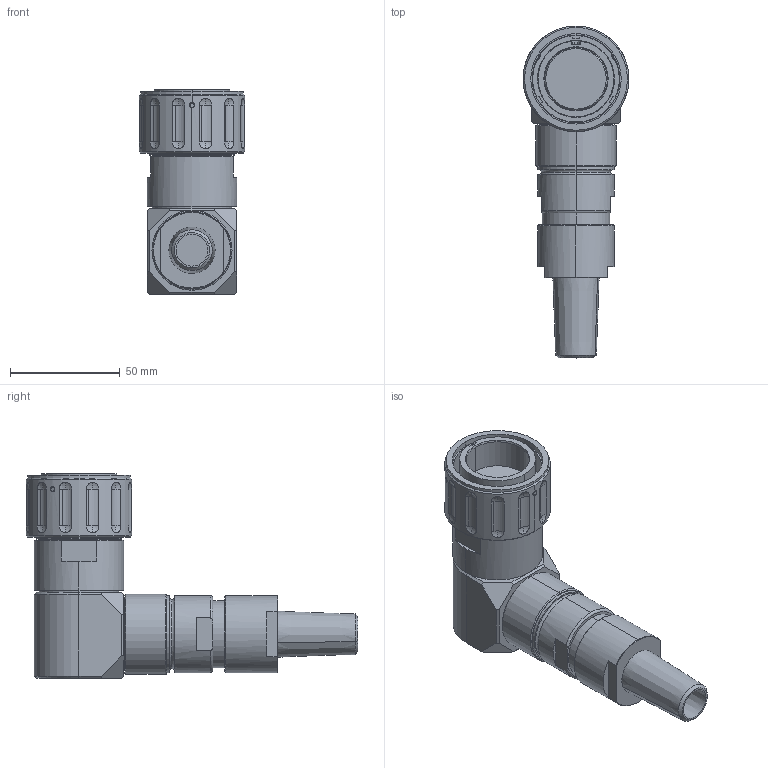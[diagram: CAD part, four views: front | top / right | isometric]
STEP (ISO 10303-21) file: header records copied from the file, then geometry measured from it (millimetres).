
FILE_DESCRIPTION (( 'STEP AP214' ), '1' );
FILE_NAME ('QLINK90-PGBX-23XX-SXXX-RA.STEP', '2025-12-09T16:18:38', ( '' ), ( '' ), 'SwSTEP 2.0', 'SolidWorks 2024', '' );
FILE_SCHEMA (( 'AUTOMOTIVE_DESIGN' ));
Length unit declared in the file: millimetre
Products named in the file (1): QLINK90-PGBX-23XX-SXXX-RA
Bounding box: 48.06 x 150.84 x 93.22 mm (x, y, z)
Volume: 195619.8 mm3; surface area: 38586.2 mm2
Topology: 5 solids, 7 shells, 328 faces, 772 edges, 494 vertices
Faces by surface type: cylinder 103, plane 93, cone 59, sphere 48, torus 13, bspline 12
Entity records: 14006 total; most frequent: CARTESIAN_POINT 6399, DIRECTION 1620, ORIENTED_EDGE 1544, EDGE_CURVE 772, AXIS2_PLACEMENT_3D 659, VERTEX_POINT 494, EDGE_LOOP 372, CIRCLE 342
